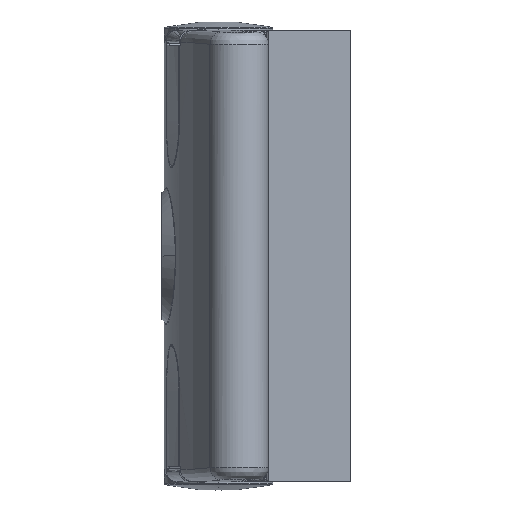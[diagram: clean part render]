
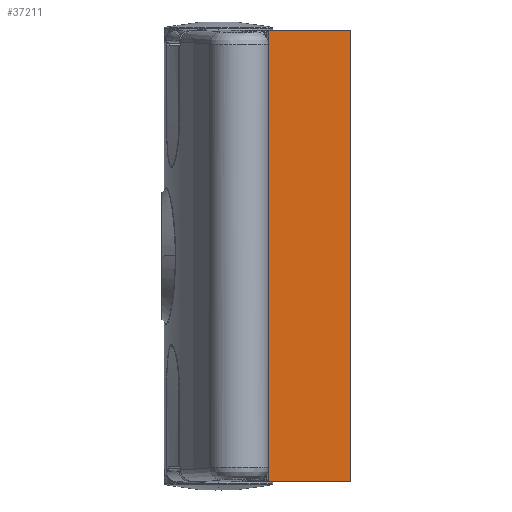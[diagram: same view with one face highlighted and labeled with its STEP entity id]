
A CAD part, left-side view. The second image highlights one B-rep face of the part: STEP entity #37211.
In plain terms, the highlighted planar face has unit normal (-1, 0, 0).
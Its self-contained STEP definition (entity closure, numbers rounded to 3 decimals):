
#1980 = VECTOR ( 'NONE', #67505, 1000. ) ;
#2943 = VERTEX_POINT ( 'NONE', #8581 ) ;
#4631 = ORIENTED_EDGE ( 'NONE', *, *, #74130, .F. ) ;
#8581 = CARTESIAN_POINT ( 'NONE',  ( -27.5, -8.3, -37.5 ) ) ;
#9441 = DIRECTION ( 'NONE',  ( 0., 1., 0. ) ) ;
#10570 = CARTESIAN_POINT ( 'NONE',  ( -27.5, -8.3, -31.2 ) ) ;
#12570 = VECTOR ( 'NONE', #115507, 1000. ) ;
#14542 = CARTESIAN_POINT ( 'NONE',  ( -27.5, -22., -37.5 ) ) ;
#16616 = CARTESIAN_POINT ( 'NONE',  ( -27.5, 10., 37.5 ) ) ;
#18864 = EDGE_LOOP ( 'NONE', ( #41299, #53889, #47457, #84697, #60883, #106343, #58513, #4631 ) ) ;
#21788 = FACE_OUTER_BOUND ( 'NONE', #18864, .T. ) ;
#23617 = VECTOR ( 'NONE', #106703, 1000. ) ;
#26029 = VECTOR ( 'NONE', #27398, 1000. ) ;
#26526 = CARTESIAN_POINT ( 'NONE',  ( -27.5, -8.3, 37.5 ) ) ;
#26707 = DIRECTION ( 'NONE',  ( 0., 1., 0. ) ) ;
#26914 = VERTEX_POINT ( 'NONE', #99568 ) ;
#27398 = DIRECTION ( 'NONE',  ( 0., 0., 1. ) ) ;
#31566 = VERTEX_POINT ( 'NONE', #88807 ) ;
#37052 = VERTEX_POINT ( 'NONE', #65807 ) ;
#37137 = DIRECTION ( 'NONE',  ( 0., 1., 0. ) ) ;
#37211 = ADVANCED_FACE ( 'NONE', ( #21788 ), #121387, .F. ) ;
#38160 = VERTEX_POINT ( 'NONE', #60733 ) ;
#41299 = ORIENTED_EDGE ( 'NONE', *, *, #91616, .F. ) ;
#45589 = LINE ( 'NONE', #14542, #12570 ) ;
#46339 = CARTESIAN_POINT ( 'NONE',  ( -27.5, 10., -37.5 ) ) ;
#47457 = ORIENTED_EDGE ( 'NONE', *, *, #116611, .F. ) ;
#50292 = CARTESIAN_POINT ( 'NONE',  ( -27.5, 10., 31.2 ) ) ;
#51546 = CARTESIAN_POINT ( 'NONE',  ( -27.5, 10., 37.5 ) ) ;
#53070 = LINE ( 'NONE', #50292, #86038 ) ;
#53889 = ORIENTED_EDGE ( 'NONE', *, *, #107258, .F. ) ;
#58513 = ORIENTED_EDGE ( 'NONE', *, *, #128761, .T. ) ;
#60733 = CARTESIAN_POINT ( 'NONE',  ( -27.5, -0.6, 31.2 ) ) ;
#60883 = ORIENTED_EDGE ( 'NONE', *, *, #92812, .F. ) ;
#64401 = LINE ( 'NONE', #76417, #23617 ) ;
#65807 = CARTESIAN_POINT ( 'NONE',  ( -27.5, -22., -37.5 ) ) ;
#66458 = LINE ( 'NONE', #16616, #1980 ) ;
#67505 = DIRECTION ( 'NONE',  ( 0., 1., 0. ) ) ;
#74130 = EDGE_CURVE ( 'NONE', #31566, #120158, #109299, .T. ) ;
#74959 = VERTEX_POINT ( 'NONE', #10570 ) ;
#76417 = CARTESIAN_POINT ( 'NONE',  ( -27.5, -8.3, 37.5 ) ) ;
#84697 = ORIENTED_EDGE ( 'NONE', *, *, #104653, .F. ) ;
#86038 = VECTOR ( 'NONE', #120529, 1000. ) ;
#88807 = CARTESIAN_POINT ( 'NONE',  ( -27.5, -8.3, 31.2 ) ) ;
#91616 = EDGE_CURVE ( 'NONE', #38160, #31566, #53070, .T. ) ;
#92812 = EDGE_CURVE ( 'NONE', #37052, #2943, #107760, .T. ) ;
#94801 = AXIS2_PLACEMENT_3D ( 'NONE', #51546, #100244, #9441 ) ;
#96003 = CARTESIAN_POINT ( 'NONE',  ( -27.5, -0.6, -31.2 ) ) ;
#97278 = CARTESIAN_POINT ( 'NONE',  ( -27.5, -0.6, 37.5 ) ) ;
#99568 = CARTESIAN_POINT ( 'NONE',  ( -27.5, -22., 37.5 ) ) ;
#100225 = VECTOR ( 'NONE', #127189, 1000. ) ;
#100244 = DIRECTION ( 'NONE',  ( 1., 0., 0. ) ) ;
#103352 = LINE ( 'NONE', #97278, #100225 ) ;
#103418 = VECTOR ( 'NONE', #26707, 1000. ) ;
#104653 = EDGE_CURVE ( 'NONE', #2943, #74959, #64401, .T. ) ;
#105469 = EDGE_CURVE ( 'NONE', #37052, #26914, #45589, .T. ) ;
#106343 = ORIENTED_EDGE ( 'NONE', *, *, #105469, .T. ) ;
#106566 = CARTESIAN_POINT ( 'NONE',  ( -27.5, 10., -31.2 ) ) ;
#106703 = DIRECTION ( 'NONE',  ( 0., 0., 1. ) ) ;
#107258 = EDGE_CURVE ( 'NONE', #122274, #38160, #103352, .T. ) ;
#107760 = LINE ( 'NONE', #46339, #118750 ) ;
#109299 = LINE ( 'NONE', #26526, #26029 ) ;
#115507 = DIRECTION ( 'NONE',  ( 0., 0., 1. ) ) ;
#116611 = EDGE_CURVE ( 'NONE', #74959, #122274, #130182, .T. ) ;
#118750 = VECTOR ( 'NONE', #37137, 1000. ) ;
#120158 = VERTEX_POINT ( 'NONE', #130252 ) ;
#120529 = DIRECTION ( 'NONE',  ( 0., -1., 0. ) ) ;
#121387 = PLANE ( 'NONE',  #94801 ) ;
#122274 = VERTEX_POINT ( 'NONE', #96003 ) ;
#127189 = DIRECTION ( 'NONE',  ( 0., 0., 1. ) ) ;
#128761 = EDGE_CURVE ( 'NONE', #26914, #120158, #66458, .T. ) ;
#130182 = LINE ( 'NONE', #106566, #103418 ) ;
#130252 = CARTESIAN_POINT ( 'NONE',  ( -27.5, -8.3, 37.5 ) ) ;
